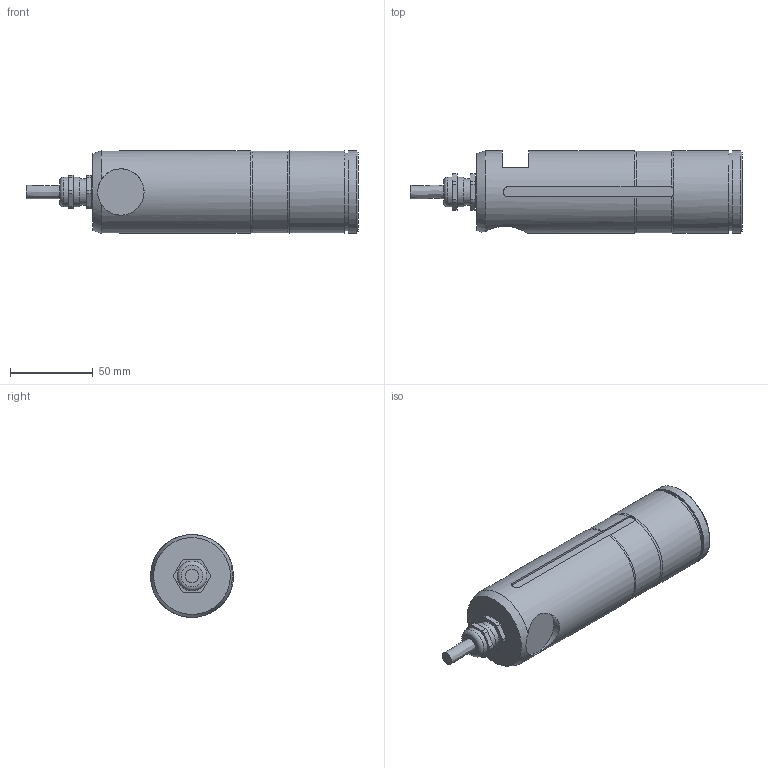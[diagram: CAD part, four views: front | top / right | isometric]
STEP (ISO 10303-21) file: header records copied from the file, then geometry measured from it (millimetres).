
FILE_DESCRIPTION(/* description */ ('Alibre Inc.'),/* implementation_level */ '2;1');
FILE_NAME(/* name */ 'export-9094B062-C725-41BF-9B5C-5E119C4B331F',/* time_stamp */ '2020-03-20T09:51:36+01:00',/* author */ (''),/* organization */ (''),/* preprocessor_version */ 'ST-DEVELOPER v17',/* originating_system */ 'Alibre',/* authorisation */ '');
FILE_SCHEMA (('CONFIG_CONTROL_DESIGN'));
Length unit declared in the file: centimetre
Bounding box: 200.45 x 50 x 50 mm (x, y, z)
Volume: 308137.2 mm3; surface area: 34402.7 mm2
Topology: 4 solids, 4 shells, 83 faces, 196 edges, 128 vertices
Faces by surface type: plane 40, cylinder 33, torus 6, cone 3, bspline 1
Full cylindrical faces by diameter (mm): 8 x1, 14.5 x1, 16 x2, 18 x2, 28 x1, 47 x1, 50 x3
Entity records: 3057 total; most frequent: CARTESIAN_POINT 820, ORIENTED_EDGE 350, DIRECTION 278, EDGE_CURVE 175, VERTEX_POINT 124, AXIS2_PLACEMENT_3D 116, FACE_BOUND 109, EDGE_LOOP 108
